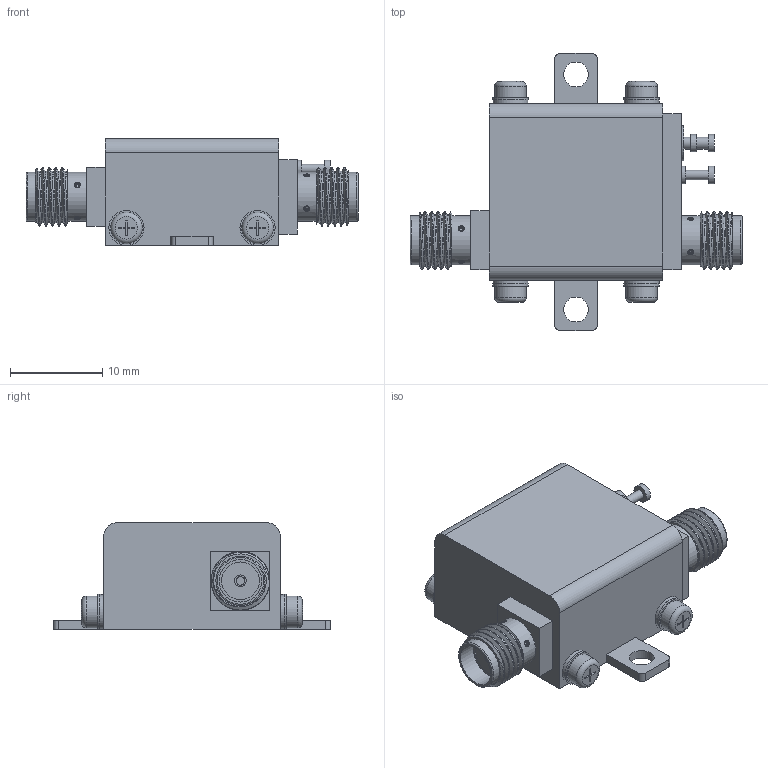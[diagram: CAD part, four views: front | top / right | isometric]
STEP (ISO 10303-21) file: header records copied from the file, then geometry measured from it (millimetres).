
FILE_DESCRIPTION(/* description */ (''),/* implementation_level */ '2;1');
FILE_NAME(/* name */ '\\uesvr4\Engineering\Engineering_Documentation_&_CAD\Source_&_Reference_Files_For_Engineering\Reference_File\3D_Step_Files\REFERENCE\GC957_Rev-E\GC957_Rev-E.stp',/* time_stamp */ '2022-04-19T13:22:19+06:00',/* author */ ('Nandakumar'),/* organization */ (''),/* preprocessor_version */ 'ST-DEVELOPER v18.1',/* originating_system */ 'AutoCAD Mechanical',/* authorisation */ '');
FILE_SCHEMA (('AUTOMOTIVE_DESIGN { 1 0 10303 214 3 1 1 }'));
Length unit declared in the file: inch
Products named in the file (2): Product; *S2
Assembly tree (1 placements, depth 2):
  Product
    *S2
Bounding box: 36.02 x 30.07 x 11.61 mm (x, y, z)
Volume: 4923.1 mm3; surface area: 2422 mm2
Topology: 1 solids, 1 shells, 262 faces, 678 edges, 466 vertices
Faces by surface type: cylinder 106, plane 94, bspline 52, torus 6, cone 4
Full cylindrical faces by diameter (mm): 0.94 x2, 1.016 x1, 1.27 x4, 1.905 x4, 2.692 x2, 3.429 x4, 3.785 x4, 3.81 x4, 3.835 x1, 4.089 x2, 4.615 x2, 5.334 x4, 5.586 x10, 6.35 x8
Entity records: 11783 total; most frequent: CARTESIAN_POINT 5443, ORIENTED_EDGE 1356, DIRECTION 1264, EDGE_CURVE 678, AXIS2_PLACEMENT_3D 499, VERTEX_POINT 466, EDGE_LOOP 314, LINE 266
